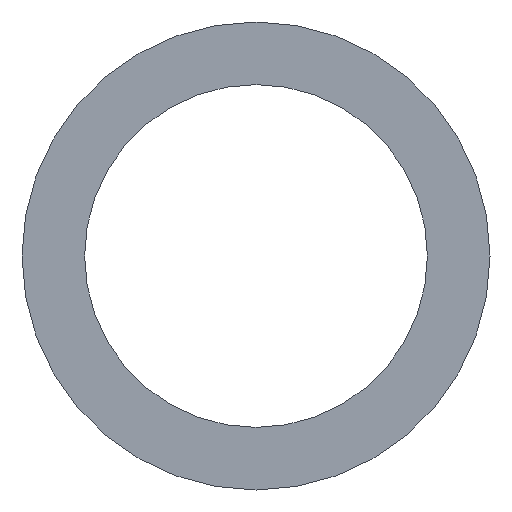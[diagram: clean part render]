
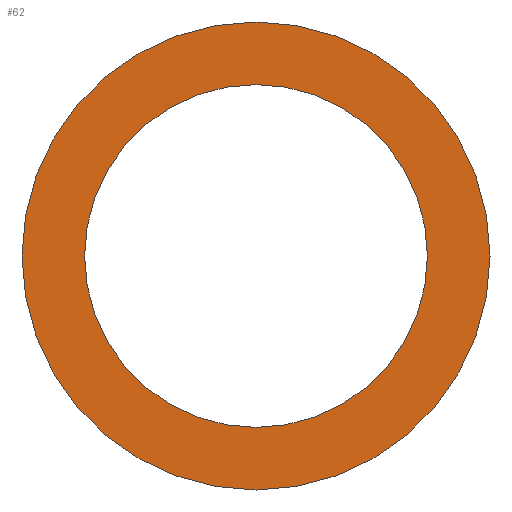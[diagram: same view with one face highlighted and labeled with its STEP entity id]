
A CAD part, front view. The second image highlights one B-rep face of the part: STEP entity #62.
In plain terms, the highlighted planar face has unit normal (0, -1, 0).
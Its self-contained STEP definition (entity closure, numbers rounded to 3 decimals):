
#20=PLANE('',#83);
#26=ORIENTED_EDGE('',*,*,#30,.T.);
#27=ORIENTED_EDGE('',*,*,#32,.F.);
#30=EDGE_CURVE('',#34,#34,#38,.T.);
#32=EDGE_CURVE('',#36,#36,#40,.T.);
#34=VERTEX_POINT('',#106);
#36=VERTEX_POINT('',#111);
#38=CIRCLE('',#78,100.);
#40=CIRCLE('',#81,136.5);
#46=EDGE_LOOP('',(#26));
#47=EDGE_LOOP('',(#27));
#54=FACE_BOUND('',#46,.T.);
#55=FACE_BOUND('',#47,.T.);
#62=ADVANCED_FACE('',(#54,#55),#20,.F.);
#78=AXIS2_PLACEMENT_3D('',#105,#89,#90);
#81=AXIS2_PLACEMENT_3D('',#110,#95,#96);
#83=AXIS2_PLACEMENT_3D('',#114,#99,#100);
#89=DIRECTION('',(0.,1.,0.));
#90=DIRECTION('',(1.,0.,0.));
#95=DIRECTION('',(0.,1.,0.));
#96=DIRECTION('',(1.,0.,0.));
#99=DIRECTION('',(0.,1.,0.));
#100=DIRECTION('',(0.,0.,1.));
#105=CARTESIAN_POINT('',(0.,-1.5,0.));
#106=CARTESIAN_POINT('',(100.,-1.5,0.));
#110=CARTESIAN_POINT('',(0.,-1.5,0.));
#111=CARTESIAN_POINT('',(136.5,-1.5,0.));
#114=CARTESIAN_POINT('',(0.,-1.5,0.));
